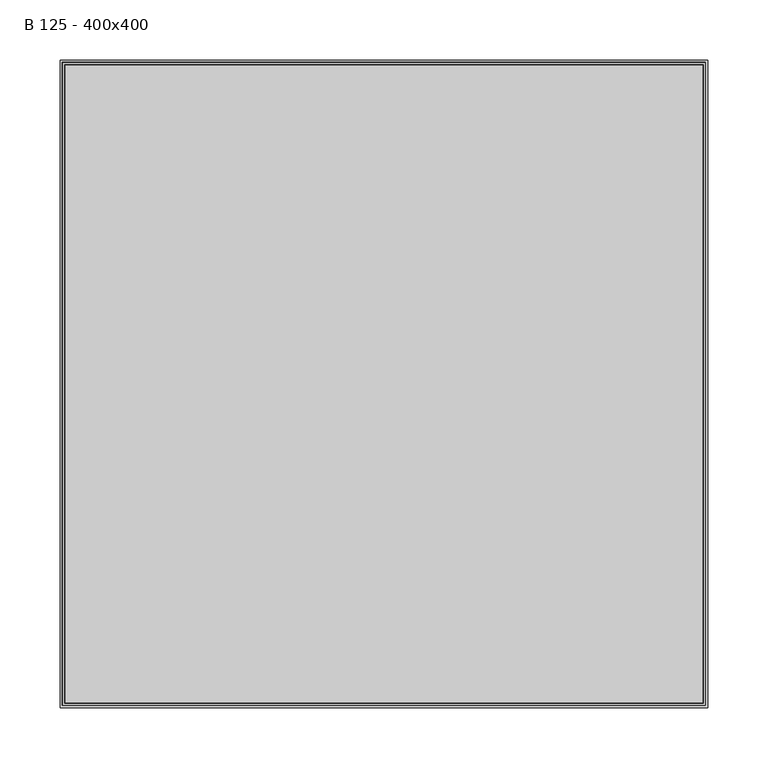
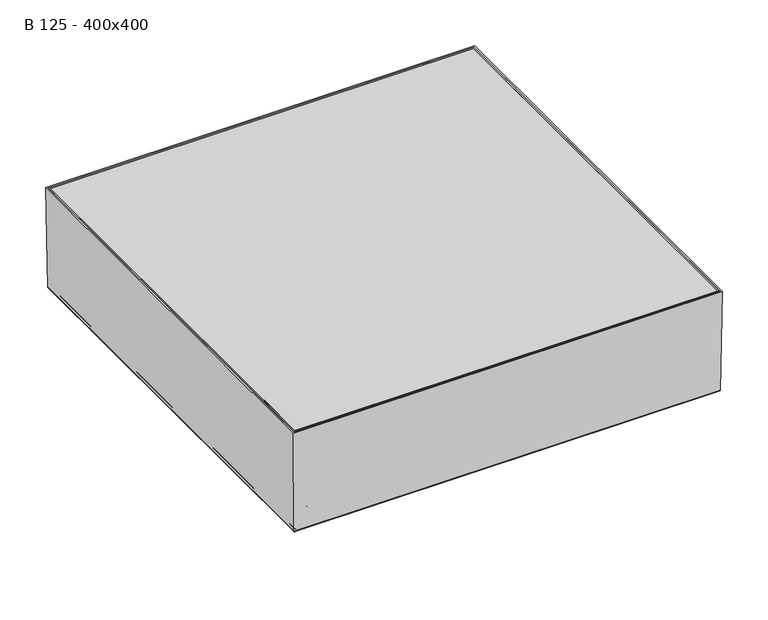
"""IFC4 building model written with IfcOpenShell, lengths in millimetres: proxy geometry, ME_ST_WPB_Access Cover PAVING GS 120_ACO : B 125 - 400x400."""

from ifc_helpers import new_model, si_unit, frame, origin, place, context, project, spatial, polyline, ellipse_curve, outline, extrude, faceted_brep, source, transform, mapped, element, save
from ifc_brep_helpers import plane_surface, cylinder_surface, revolved_surface, advanced_brep


def b_125_400x400_27d3137f(model_context):
    return source(origin(), model_context, "Body", "SolidModel", [
        extrude(outline(polyline([(265.4987812, 265.4987812), (265.4987812, -265.4987812), (-265.4987812, -265.4987812), (-265.4987812, 265.4987812), (265.4987812, 265.4987812)])), frame((0.0, 0.0, -5.0), z_axis=(0.0, 0.0, 1.0), x_axis=(1.0, 0.0, 0.0)), (0.0, 0.0, 1.0), 5.0),
        faceted_brep([(261.3786863, 261.3786863, -117.9987834), (-261.3786863, 261.3786863, -117.9987834), (-261.3786863, -261.3786863, -117.9987834), (261.3786863, -261.3786863, -117.9987834), (263.3100297, 263.3100297, -120.0), (263.3100297, -263.3100297, -120.0), (-263.3100297, -263.3100297, -120.0), (-263.3100297, 263.3100297, -120.0), (267.5, 267.5, 0.0), (267.5, -267.5, 0.0), (-267.5, -267.5, 0.0), (-267.5, 267.5, 0.0), (265.4987812, -265.4987812, 0.0), (265.4987812, 265.4987812, 0.0), (-265.4987812, -265.4987812, 0.0), (-265.4987812, 265.4987812, 0.0)], [[[0, 1, 2, 3]], [[4, 5, 6, 7]], [[4, 8, 9, 5]], [[5, 9, 10, 6]], [[6, 10, 11, 7]], [[8, 4, 7, 11]], [[0, 3, 12, 13]], [[3, 2, 14, 12]], [[2, 1, 15, 14]], [[1, 0, 13, 15]], [[9, 8, 11, 10], [13, 12, 14, 15]]]),
        extrude(outline(polyline([(-175.0, 135.0), (-165.0, 135.0), (-165.0, 5.0), (165.0, 5.0), (165.0, 135.0), (175.0, 135.0), (175.0, -135.0), (165.0, -135.0), (165.0, -5.0), (-165.0, -5.0), (-165.0, -135.0), (-175.0, -135.0), (-175.0, 135.0)])), frame((0.0, 0.0, -187.1), z_axis=(0.0, 0.0, 1.0), x_axis=(1.0, 0.0, 0.0)), (0.0, 0.0, 1.0), 43.1),
        extrude(outline(polyline([(135.0, 175.0), (135.0, 165.0), (5.0, 165.0), (5.0, -165.0), (135.0, -165.0), (135.0, -175.0), (-135.0, -175.0), (-135.0, -165.0), (-5.0, -165.0), (-5.0, 165.0), (-135.0, 165.0), (-135.0, 175.0), (135.0, 175.0)])), frame((0.0, 0.0, -187.1), z_axis=(0.0, 0.0, 1.0), x_axis=(1.0, 0.0, 0.0)), (0.0, 0.0, 1.0), 43.1),
        advanced_brep(
        [(266.5603915, 266.5603915, -133.0), (267.8917116, 267.8917116, -131.7973005), (267.8917116, -267.8917116, -131.7973005), (266.5603915, -266.5603915, -133.0), (233.991936, 233.991936, -133.5068236), (234.8495131, 234.8495131, -133.0), (234.8495131, -234.8495131, -133.0), (233.991936, -233.991936, -133.5068236), (224.0430631, 224.0430631, -143.4568727), (224.0430631, -224.0430631, -143.4568727), (223.0631773, 223.0631773, -144.0), (223.0631773, -223.0631773, -144.0), (200.0, 200.0, -142.0), (202.0, 202.0, -144.0), (202.0, -202.0, -144.0), (200.0, -200.0, -142.0), (200.0, 200.0, -131.0), (200.0, -200.0, -131.0), (202.0, 202.0, -131.0), (202.0, -202.0, -131.0), (202.0, -202.0, -140.1412819), (202.0, 202.0, -140.1412819), (203.5596496, 203.5596496, -142.0), (203.5596496, -203.5596496, -142.0), (223.1238392, 223.1238392, -141.5476755), (222.3710448, 222.3710448, -142.0), (222.3710448, -222.3710448, -142.0), (223.1238392, -223.1238392, -141.5476755), (233.2056833, 233.2056833, -131.4646396), (233.2056833, -233.2056833, -131.4646396), (234.1109139, 234.1109139, -130.9987834), (234.1109139, -234.1109139, -130.9987834), (265.914412, 265.914412, -129.9192491), (264.7898686, 264.7898686, -130.9987834), (264.7898686, -264.7898686, -130.9987834), (265.914412, -265.914412, -129.9192491), (267.4987388, 267.4987388, 0.0), (267.4987388, -267.4987388, 0.0), (269.4989406, 269.4989406, 0.0), (269.4989406, -269.4989406, 0.0), (-267.8917116, -267.8917116, -131.7973005), (-266.5603915, -266.5603915, -133.0), (-234.8495131, -234.8495131, -133.0), (-233.991936, -233.991936, -133.5068236), (-224.0430631, -224.0430631, -143.4568727), (-223.0631773, -223.0631773, -144.0), (-202.0, -202.0, -144.0), (-200.0, -200.0, -142.0), (-200.0, -200.0, -131.0), (-202.0, -202.0, -131.0), (-202.0, -202.0, -140.1412819), (-203.5596496, -203.5596496, -142.0), (-222.3710448, -222.3710448, -142.0), (-223.1238392, -223.1238392, -141.5476755), (-233.2056833, -233.2056833, -131.4646396), (-234.1109139, -234.1109139, -130.9987834), (-264.7898686, -264.7898686, -130.9987834), (-265.914412, -265.914412, -129.9192491), (-267.4987388, -267.4987388, 0.0), (-269.4989406, -269.4989406, 0.0), (-267.8917116, 267.8917116, -131.7973005), (-266.5603915, 266.5603915, -133.0), (-234.8495131, 234.8495131, -133.0), (-233.991936, 233.991936, -133.5068236), (-224.0430631, 224.0430631, -143.4568727), (-223.0631773, 223.0631773, -144.0), (-202.0, 202.0, -144.0), (-200.0, 200.0, -142.0), (-200.0, 200.0, -131.0), (-202.0, 202.0, -131.0), (-202.0, 202.0, -140.1412819), (-203.5596496, 203.5596496, -142.0), (-222.3710448, 222.3710448, -142.0), (-223.1238392, 223.1238392, -141.5476755), (-233.2056833, 233.2056833, -131.4646396), (-234.1109139, 234.1109139, -130.9987834), (-264.7898686, 264.7898686, -130.9987834), (-265.914412, 265.914412, -129.9192491), (-267.4987388, 267.4987388, 0.0), (-269.4989406, 269.4989406, 0.0)],
        [
            (0, 1, ellipse_curve(frame((266.5603915, 266.5603915, -131.6618023), z_axis=(0.7071067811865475, -0.7071067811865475, 0.0), x_axis=(0.7071067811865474, 0.7071067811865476, 0.0)), 1.8924973, 1.3381977)),
            (1, 2),
            (2, 3, ellipse_curve(frame((266.5603915, -266.5603915, -131.6618023), z_axis=(0.7071067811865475, 0.7071067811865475, 0.0), x_axis=(-0.7071067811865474, 0.7071067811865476, 0.0)), 1.8924973, 1.3381977)),
            (3, 0),
            (4, 5, ellipse_curve(frame((235.4062332, 235.4062332, -134.9209536), z_axis=(-0.7071067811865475, 0.7071067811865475, 0.0), x_axis=(-0.7071067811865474, -0.7071067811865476, 0.0)), 2.8284271, 2.0)),
            (5, 6),
            (6, 7, ellipse_curve(frame((235.4062332, -235.4062332, -134.9209536), z_axis=(-0.7071067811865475, -0.7071067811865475, 0.0), x_axis=(0.7071067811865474, -0.7071067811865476, 0.0)), 2.8284271, 2.0)),
            (7, 4),
            (8, 4),
            (7, 9),
            (9, 8),
            (10, 8, ellipse_curve(frame((221.5169048, 221.5169048, -140.0547885), z_axis=(0.7071067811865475, -0.7071067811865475, 0.0), x_axis=(0.7071067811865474, 0.7071067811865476, 0.0)), 5.9926042, 4.237411)),
            (9, 11, ellipse_curve(frame((221.5169048, -221.5169048, -140.0547885), z_axis=(0.7071067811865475, 0.7071067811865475, 0.0), x_axis=(-0.7071067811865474, 0.7071067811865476, 0.0)), 5.9926042, 4.237411)),
            (11, 10),
            (12, 13, ellipse_curve(frame((203.5491099, 203.5491099, -140.4508901), z_axis=(0.7071067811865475, -0.7071067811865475, 0.0), x_axis=(0.7071067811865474, 0.7071067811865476, 0.0)), 5.4764811, 3.872457)),
            (13, 14),
            (14, 15, ellipse_curve(frame((203.5491099, -203.5491099, -140.4508901), z_axis=(0.7071067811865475, 0.7071067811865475, 0.0), x_axis=(-0.7071067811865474, 0.7071067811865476, 0.0)), 5.4764811, 3.872457)),
            (15, 12),
            (16, 12),
            (15, 17),
            (17, 16),
            (18, 19),
            (19, 20),
            (20, 21),
            (21, 18),
            (22, 21, ellipse_curve(frame((203.9978512, 203.9978512, -140.0485955), z_axis=(-0.7071067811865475, 0.7071067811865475, 0.0), x_axis=(-0.7071067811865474, -0.7071067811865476, 0.0)), 2.8284271, 2.0)),
            (20, 23, ellipse_curve(frame((203.9978512, -203.9978512, -140.0485955), z_axis=(-0.7071067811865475, -0.7071067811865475, 0.0), x_axis=(0.7071067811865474, -0.7071067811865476, 0.0)), 2.8284271, 2.0)),
            (23, 22),
            (24, 25, ellipse_curve(frame((221.7425005, 221.7425005, -140.1013342), z_axis=(-0.7071067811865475, 0.7071067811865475, 0.0), x_axis=(-0.7071067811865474, -0.7071067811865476, 0.0)), 2.8284271, 2.0)),
            (25, 26),
            (26, 27, ellipse_curve(frame((221.7425005, -221.7425005, -140.1013342), z_axis=(-0.7071067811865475, -0.7071067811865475, 0.0), x_axis=(0.7071067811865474, -0.7071067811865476, 0.0)), 2.8284271, 2.0)),
            (27, 24),
            (28, 24),
            (27, 29),
            (29, 28),
            (30, 28, ellipse_curve(frame((234.4486156, 234.4486156, -132.7674195), z_axis=(0.7071067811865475, -0.7071067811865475, 0.0), x_axis=(0.7071067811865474, 0.7071067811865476, 0.0)), 2.5464155, 1.8005877)),
            (29, 31, ellipse_curve(frame((234.4486156, -234.4486156, -132.7674195), z_axis=(0.7071067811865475, 0.7071067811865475, 0.0), x_axis=(-0.7071067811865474, 0.7071067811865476, 0.0)), 2.5464155, 1.8005877)),
            (31, 30),
            (32, 33, ellipse_curve(frame((264.625281, 264.625281, -129.7018519), z_axis=(-0.7071067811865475, 0.7071067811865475, 0.0), x_axis=(-0.7071067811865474, -0.7071067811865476, 0.0)), 1.8488485, 1.3073333)),
            (33, 34),
            (34, 35, ellipse_curve(frame((264.625281, -264.625281, -129.7018519), z_axis=(-0.7071067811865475, -0.7071067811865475, 0.0), x_axis=(0.7071067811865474, -0.7071067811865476, 0.0)), 1.8488485, 1.3073333)),
            (35, 32),
            (36, 32),
            (35, 37),
            (37, 36),
            (1, 38),
            (38, 39),
            (39, 2),
            (2, 40),
            (40, 41, ellipse_curve(frame((-266.5603915, -266.5603915, -131.6618023), z_axis=(0.7071067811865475, -0.7071067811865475, 0.0), x_axis=(0.7071067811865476, 0.7071067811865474, 0.0)), 1.8924973, 1.3381977)),
            (41, 3),
            (6, 42),
            (42, 43, ellipse_curve(frame((-235.4062332, -235.4062332, -134.9209536), z_axis=(-0.7071067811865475, 0.7071067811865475, 0.0), x_axis=(-0.7071067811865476, -0.7071067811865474, 0.0)), 2.8284271, 2.0)),
            (43, 7),
            (43, 44),
            (44, 9),
            (44, 45, ellipse_curve(frame((-221.5169048, -221.5169048, -140.0547885), z_axis=(0.7071067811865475, -0.7071067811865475, 0.0), x_axis=(0.7071067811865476, 0.7071067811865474, 0.0)), 5.9926042, 4.237411)),
            (45, 11),
            (14, 46),
            (46, 47, ellipse_curve(frame((-203.5491099, -203.5491099, -140.4508901), z_axis=(0.7071067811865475, -0.7071067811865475, 0.0), x_axis=(0.7071067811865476, 0.7071067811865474, 0.0)), 5.4764811, 3.872457)),
            (47, 15),
            (47, 48),
            (48, 17),
            (19, 49),
            (49, 50),
            (50, 20),
            (50, 51, ellipse_curve(frame((-203.9978512, -203.9978512, -140.0485955), z_axis=(-0.7071067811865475, 0.7071067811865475, 0.0), x_axis=(-0.7071067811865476, -0.7071067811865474, 0.0)), 2.8284271, 2.0)),
            (51, 23),
            (26, 52),
            (52, 53, ellipse_curve(frame((-221.7425005, -221.7425005, -140.1013342), z_axis=(-0.7071067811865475, 0.7071067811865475, 0.0), x_axis=(-0.7071067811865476, -0.7071067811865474, 0.0)), 2.8284271, 2.0)),
            (53, 27),
            (53, 54),
            (54, 29),
            (54, 55, ellipse_curve(frame((-234.4486156, -234.4486156, -132.7674195), z_axis=(0.7071067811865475, -0.7071067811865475, 0.0), x_axis=(0.7071067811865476, 0.7071067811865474, 0.0)), 2.5464155, 1.8005877)),
            (55, 31),
            (34, 56),
            (56, 57, ellipse_curve(frame((-264.625281, -264.625281, -129.7018519), z_axis=(-0.7071067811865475, 0.7071067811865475, 0.0), x_axis=(-0.7071067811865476, -0.7071067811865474, 0.0)), 1.8488485, 1.3073333)),
            (57, 35),
            (57, 58),
            (58, 37),
            (39, 59),
            (59, 40),
            (40, 60),
            (60, 61, ellipse_curve(frame((-266.5603915, 266.5603915, -131.6618023), z_axis=(-0.7071067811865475, -0.7071067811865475, 0.0), x_axis=(0.7071067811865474, -0.7071067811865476, 0.0)), 1.8924973, 1.3381977)),
            (61, 41),
            (42, 62),
            (62, 63, ellipse_curve(frame((-235.4062332, 235.4062332, -134.9209536), z_axis=(0.7071067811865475, 0.7071067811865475, 0.0), x_axis=(-0.7071067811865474, 0.7071067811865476, 0.0)), 2.8284271, 2.0)),
            (63, 43),
            (63, 64),
            (64, 44),
            (64, 65, ellipse_curve(frame((-221.5169048, 221.5169048, -140.0547885), z_axis=(-0.7071067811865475, -0.7071067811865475, 0.0), x_axis=(0.7071067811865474, -0.7071067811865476, 0.0)), 5.9926042, 4.237411)),
            (65, 45),
            (46, 66),
            (66, 67, ellipse_curve(frame((-203.5491099, 203.5491099, -140.4508901), z_axis=(-0.7071067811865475, -0.7071067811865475, 0.0), x_axis=(0.7071067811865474, -0.7071067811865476, 0.0)), 5.4764811, 3.872457)),
            (67, 47),
            (67, 68),
            (68, 48),
            (49, 69),
            (69, 70),
            (70, 50),
            (70, 71, ellipse_curve(frame((-203.9978512, 203.9978512, -140.0485955), z_axis=(0.7071067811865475, 0.7071067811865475, 0.0), x_axis=(-0.7071067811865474, 0.7071067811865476, 0.0)), 2.8284271, 2.0)),
            (71, 51),
            (52, 72),
            (72, 73, ellipse_curve(frame((-221.7425005, 221.7425005, -140.1013342), z_axis=(0.7071067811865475, 0.7071067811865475, 0.0), x_axis=(-0.7071067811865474, 0.7071067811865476, 0.0)), 2.8284271, 2.0)),
            (73, 53),
            (73, 74),
            (74, 54),
            (74, 75, ellipse_curve(frame((-234.4486156, 234.4486156, -132.7674195), z_axis=(-0.7071067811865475, -0.7071067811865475, 0.0), x_axis=(0.7071067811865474, -0.7071067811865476, 0.0)), 2.5464155, 1.8005877)),
            (75, 55),
            (56, 76),
            (76, 77, ellipse_curve(frame((-264.625281, 264.625281, -129.7018519), z_axis=(0.7071067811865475, 0.7071067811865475, 0.0), x_axis=(-0.7071067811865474, 0.7071067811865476, 0.0)), 1.8488485, 1.3073333)),
            (77, 57),
            (77, 78),
            (78, 58),
            (59, 79),
            (79, 60),
            (60, 1),
            (0, 61),
            (5, 62),
            (4, 63),
            (8, 64),
            (10, 65),
            (13, 66),
            (12, 67),
            (16, 68),
            (18, 69),
            (21, 70),
            (22, 71),
            (25, 72),
            (24, 73),
            (28, 74),
            (30, 75),
            (33, 76),
            (32, 77),
            (36, 78),
            (38, 79),
        ],
        [
            cylinder_surface(frame((266.5603915, 269.5, -131.6618023), z_axis=(0.0, 1.0, 0.0), x_axis=(1.0, 0.0, 0.0)), 1.3381977),
            revolved_surface(polyline([(237.4062332, -237.40623318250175, -134.9209536), (237.4062332, 237.4062331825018, -134.9209536)]), (235.4062332, 269.5, -134.9209536), (0.0, -1.0, 0.0)),
            plane_surface(frame((233.991936, 233.991936, -133.5068236), z_axis=(0.7071485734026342, 0.0, -0.7070649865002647), x_axis=(0.0, -1.0, 0.0))),
            cylinder_surface(frame((221.5169048, 269.5, -140.0547885), z_axis=(0.0, 1.0, 0.0), x_axis=(1.0, 0.0, 0.0)), 4.237411),
            cylinder_surface(frame((203.5491099, 269.5, -140.4508901), z_axis=(0.0, 1.0, 0.0), x_axis=(1.0, 0.0, 0.0)), 3.872457),
            plane_surface(frame((200.0, 200.0, -142.0), z_axis=(-1.0, 0.0, 0.0), x_axis=(0.0, -1.0, 0.0))),
            plane_surface(frame((202.0, 202.0, -133.0), z_axis=(1.0, 0.0, 0.0), x_axis=(0.0, -1.0, 0.0))),
            revolved_surface(polyline([(205.9978512, -205.9978511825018, -140.0485955), (205.9978512, 205.99785118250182, -140.0485955)]), (203.9978512, 269.5, -140.0485955), (0.0, -1.0, 0.0)),
            revolved_surface(polyline([(223.7425005, -223.74250048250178, -140.1013342), (223.7425005, 223.7425004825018, -140.1013342)]), (221.7425005, 269.5, -140.1013342), (0.0, -1.0, 0.0)),
            plane_surface(frame((223.1238392, 223.1238392, -141.5476755), z_axis=(-0.7071485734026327, 0.0, 0.7070649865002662), x_axis=(0.0, -1.0, 0.0))),
            cylinder_surface(frame((234.4486156, 269.5, -132.7674195), z_axis=(0.0, 1.0, 0.0), x_axis=(1.0, 0.0, 0.0)), 1.8005877),
            revolved_surface(polyline([(265.93261429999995, -265.93261431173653, -129.7018519), (265.93261429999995, 265.93261431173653, -129.7018519)]), (264.625281, 269.5, -129.7018519), (0.0, -1.0, 0.0)),
            plane_surface(frame((265.914412, 265.914412, -129.9192491), z_axis=(-0.9999256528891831, 0.0, 0.01219379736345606), x_axis=(0.0, -1.0, 0.0))),
            plane_surface(frame((269.4989406, 269.4989406, 0.0), z_axis=(0.9999256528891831, 0.0, -0.012193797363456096), x_axis=(0.0, -1.0, 0.0))),
            cylinder_surface(frame((269.5, -266.5603915, -131.6618023), z_axis=(1.0, 0.0, 0.0), x_axis=(0.0, -1.0, 0.0)), 1.3381977),
            revolved_surface(polyline([(-237.40623318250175, -237.4062332, -134.9209536), (237.4062331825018, -237.4062332, -134.9209536)]), (269.5, -235.4062332, -134.9209536), (-1.0, 0.0, 0.0)),
            plane_surface(frame((233.991936, -233.991936, -133.5068236), z_axis=(0.0, -0.7071485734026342, -0.7070649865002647), x_axis=(-1.0, 0.0, 0.0))),
            cylinder_surface(frame((269.5, -221.5169048, -140.0547885), z_axis=(1.0, 0.0, 0.0), x_axis=(0.0, -1.0, 0.0)), 4.237411),
            cylinder_surface(frame((269.5, -203.5491099, -140.4508901), z_axis=(1.0, 0.0, 0.0), x_axis=(0.0, -1.0, 0.0)), 3.872457),
            plane_surface(frame((200.0, -200.0, -142.0), z_axis=(0.0, 1.0, 0.0), x_axis=(-1.0, 0.0, 0.0))),
            plane_surface(frame((202.0, -202.0, -133.0), z_axis=(0.0, -1.0, 0.0), x_axis=(-1.0, 0.0, 0.0))),
            revolved_surface(polyline([(-205.9978511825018, -205.9978512, -140.0485955), (205.99785118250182, -205.9978512, -140.0485955)]), (269.5, -203.9978512, -140.0485955), (-1.0, 0.0, 0.0)),
            revolved_surface(polyline([(-223.74250048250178, -223.7425005, -140.1013342), (223.7425004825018, -223.7425005, -140.1013342)]), (269.5, -221.7425005, -140.1013342), (-1.0, 0.0, 0.0)),
            plane_surface(frame((223.1238392, -223.1238392, -141.5476755), z_axis=(0.0, 0.7071485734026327, 0.7070649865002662), x_axis=(-1.0, 0.0, 0.0))),
            cylinder_surface(frame((269.5, -234.4486156, -132.7674195), z_axis=(1.0, 0.0, 0.0), x_axis=(0.0, -1.0, 0.0)), 1.8005877),
            revolved_surface(polyline([(-265.93261431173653, -265.93261429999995, -129.7018519), (265.93261431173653, -265.93261429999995, -129.7018519)]), (269.5, -264.625281, -129.7018519), (-1.0, 0.0, 0.0)),
            plane_surface(frame((265.914412, -265.914412, -129.9192491), z_axis=(0.0, 0.9999256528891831, 0.01219379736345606), x_axis=(-1.0, 0.0, 0.0))),
            plane_surface(frame((269.4989406, -269.4989406, 0.0), z_axis=(0.0, -0.9999256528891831, -0.012193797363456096), x_axis=(-1.0, 0.0, 0.0))),
            cylinder_surface(frame((-266.5603915, -269.5, -131.6618023), z_axis=(0.0, -1.0, 0.0), x_axis=(-1.0, 0.0, 0.0)), 1.3381977),
            revolved_surface(polyline([(-237.4062332, 237.40623318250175, -134.9209536), (-237.4062332, -237.4062331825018, -134.9209536)]), (-235.4062332, -269.5, -134.9209536), (0.0, 1.0, 0.0)),
            plane_surface(frame((-233.991936, -233.991936, -133.5068236), z_axis=(-0.7071485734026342, 0.0, -0.7070649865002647), x_axis=(0.0, 1.0, 0.0))),
            cylinder_surface(frame((-221.5169048, -269.5, -140.0547885), z_axis=(0.0, -1.0, 0.0), x_axis=(-1.0, 0.0, 0.0)), 4.237411),
            cylinder_surface(frame((-203.5491099, -269.5, -140.4508901), z_axis=(0.0, -1.0, 0.0), x_axis=(-1.0, 0.0, 0.0)), 3.872457),
            plane_surface(frame((-200.0, -200.0, -142.0), z_axis=(1.0, 0.0, 0.0), x_axis=(0.0, 1.0, 0.0))),
            plane_surface(frame((-202.0, -202.0, -133.0), z_axis=(-1.0, 0.0, 0.0), x_axis=(0.0, 1.0, 0.0))),
            revolved_surface(polyline([(-205.9978512, 205.9978511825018, -140.0485955), (-205.9978512, -205.99785118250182, -140.0485955)]), (-203.9978512, -269.5, -140.0485955), (0.0, 1.0, 0.0)),
            revolved_surface(polyline([(-223.7425005, 223.74250048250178, -140.1013342), (-223.7425005, -223.7425004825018, -140.1013342)]), (-221.7425005, -269.5, -140.1013342), (0.0, 1.0, 0.0)),
            plane_surface(frame((-223.1238392, -223.1238392, -141.5476755), z_axis=(0.7071485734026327, 0.0, 0.7070649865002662), x_axis=(0.0, 1.0, 0.0))),
            cylinder_surface(frame((-234.4486156, -269.5, -132.7674195), z_axis=(0.0, -1.0, 0.0), x_axis=(-1.0, 0.0, 0.0)), 1.8005877),
            revolved_surface(polyline([(-265.93261429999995, 265.93261431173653, -129.7018519), (-265.93261429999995, -265.93261431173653, -129.7018519)]), (-264.625281, -269.5, -129.7018519), (0.0, 1.0, 0.0)),
            plane_surface(frame((-265.914412, -265.914412, -129.9192491), z_axis=(0.9999256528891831, 0.0, 0.01219379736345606), x_axis=(0.0, 1.0, 0.0))),
            plane_surface(frame((-269.4989406, -269.4989406, 0.0), z_axis=(-0.9999256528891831, 0.0, -0.012193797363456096), x_axis=(0.0, 1.0, 0.0))),
            cylinder_surface(frame((-269.5, 266.5603915, -131.6618023), z_axis=(-1.0, 0.0, 0.0), x_axis=(0.0, 1.0, 0.0)), 1.3381977),
            plane_surface(frame((-266.5603915, 266.5603915, -133.0), z_axis=(0.0, 0.0, -1.0), x_axis=(1.0, 0.0, 0.0))),
            revolved_surface(polyline([(237.40623318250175, 237.4062332, -134.9209536), (-237.4062331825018, 237.4062332, -134.9209536)]), (-269.5, 235.4062332, -134.9209536), (1.0, 0.0, 0.0)),
            plane_surface(frame((-233.991936, 233.991936, -133.5068236), z_axis=(0.0, 0.7071485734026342, -0.7070649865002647), x_axis=(1.0, 0.0, 0.0))),
            cylinder_surface(frame((-269.5, 221.5169048, -140.0547885), z_axis=(-1.0, 0.0, 0.0), x_axis=(0.0, 1.0, 0.0)), 4.237411),
            plane_surface(frame((-223.0631773, 223.0631773, -144.0), z_axis=(0.0, 0.0, -1.0), x_axis=(1.0, 0.0, 0.0))),
            cylinder_surface(frame((-269.5, 203.5491099, -140.4508901), z_axis=(-1.0, 0.0, 0.0), x_axis=(0.0, 1.0, 0.0)), 3.872457),
            plane_surface(frame((-200.0, 200.0, -142.0), z_axis=(0.0, -1.0, 0.0), x_axis=(1.0, 0.0, 0.0))),
            plane_surface(frame((-200.0, 200.0, -131.0), z_axis=(0.0, 0.0, 1.0), x_axis=(1.0, 0.0, 0.0))),
            plane_surface(frame((-202.0, 202.0, -133.0), z_axis=(0.0, 1.0, 0.0), x_axis=(1.0, 0.0, 0.0))),
            revolved_surface(polyline([(205.9978511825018, 205.9978512, -140.0485955), (-205.99785118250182, 205.9978512, -140.0485955)]), (-269.5, 203.9978512, -140.0485955), (1.0, 0.0, 0.0)),
            plane_surface(frame((-203.5596496, 203.5596496, -142.0), z_axis=(0.0, 0.0, 1.0), x_axis=(1.0, 0.0, 0.0))),
            revolved_surface(polyline([(223.74250048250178, 223.7425005, -140.1013342), (-223.7425004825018, 223.7425005, -140.1013342)]), (-269.5, 221.7425005, -140.1013342), (1.0, 0.0, 0.0)),
            plane_surface(frame((-223.1238392, 223.1238392, -141.5476755), z_axis=(0.0, -0.7071485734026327, 0.7070649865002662), x_axis=(1.0, 0.0, 0.0))),
            cylinder_surface(frame((-269.5, 234.4486156, -132.7674195), z_axis=(-1.0, 0.0, 0.0), x_axis=(0.0, 1.0, 0.0)), 1.8005877),
            plane_surface(frame((-234.1109139, 234.1109139, -130.9987834), z_axis=(0.0, 0.0, 1.0), x_axis=(1.0, 0.0, 0.0))),
            revolved_surface(polyline([(265.93261431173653, 265.93261429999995, -129.7018519), (-265.93261431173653, 265.93261429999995, -129.7018519)]), (-269.5, 264.625281, -129.7018519), (1.0, 0.0, 0.0)),
            plane_surface(frame((-265.914412, 265.914412, -129.9192491), z_axis=(0.0, -0.9999256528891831, 0.01219379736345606), x_axis=(1.0, 0.0, 0.0))),
            plane_surface(frame((-267.4987388, 267.4987388, 0.0), z_axis=(0.0, 0.0, 1.0), x_axis=(1.0, 0.0, 0.0))),
            plane_surface(frame((-269.4989406, 269.4989406, 0.0), z_axis=(0.0, 0.9999256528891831, -0.012193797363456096), x_axis=(1.0, 0.0, 0.0))),
        ],
        [
            (0, [[1, 2, 3, 4]]),
            (1, [[5, 6, 7, 8]]),
            (2, [[9, -8, 10, 11]]),
            (3, [[12, -11, 13, 14]]),
            (4, [[15, 16, 17, 18]]),
            (5, [[19, -18, 20, 21]]),
            (6, [[22, 23, 24, 25]]),
            (7, [[26, -24, 27, 28]]),
            (8, [[29, 30, 31, 32]]),
            (9, [[33, -32, 34, 35]]),
            (10, [[36, -35, 37, 38]]),
            (11, [[39, 40, 41, 42]]),
            (12, [[43, -42, 44, 45]]),
            (13, [[46, 47, 48, -2]]),
            (14, [[-3, 49, 50, 51]]),
            (15, [[-7, 52, 53, 54]]),
            (16, [[-10, -54, 55, 56]]),
            (17, [[-13, -56, 57, 58]]),
            (18, [[-17, 59, 60, 61]]),
            (19, [[-20, -61, 62, 63]]),
            (20, [[-23, 64, 65, 66]]),
            (21, [[-27, -66, 67, 68]]),
            (22, [[-31, 69, 70, 71]]),
            (23, [[-34, -71, 72, 73]]),
            (24, [[-37, -73, 74, 75]]),
            (25, [[-41, 76, 77, 78]]),
            (26, [[-44, -78, 79, 80]]),
            (27, [[-48, 81, 82, -49]]),
            (28, [[-50, 83, 84, 85]]),
            (29, [[-53, 86, 87, 88]]),
            (30, [[-55, -88, 89, 90]]),
            (31, [[-57, -90, 91, 92]]),
            (32, [[-60, 93, 94, 95]]),
            (33, [[-62, -95, 96, 97]]),
            (34, [[-65, 98, 99, 100]]),
            (35, [[-67, -100, 101, 102]]),
            (36, [[-70, 103, 104, 105]]),
            (37, [[-72, -105, 106, 107]]),
            (38, [[-74, -107, 108, 109]]),
            (39, [[-77, 110, 111, 112]]),
            (40, [[-79, -112, 113, 114]]),
            (41, [[-82, 115, 116, -83]]),
            (42, [[-84, 117, -1, 118]]),
            (43, [[-51, -85, -118, -4], [119, -86, -52, -6]]),
            (44, [[-87, -119, -5, 120]]),
            (45, [[-89, -120, -9, 121]]),
            (46, [[-91, -121, -12, 122]]),
            (47, [[-58, -92, -122, -14], [123, -93, -59, -16]]),
            (48, [[-94, -123, -15, 124]]),
            (49, [[-96, -124, -19, 125]]),
            (50, [[126, -98, -64, -22], [-63, -97, -125, -21]]),
            (51, [[-99, -126, -25, 127]]),
            (52, [[-101, -127, -26, 128]]),
            (53, [[129, -103, -69, -30], [-68, -102, -128, -28]]),
            (54, [[-104, -129, -29, 130]]),
            (55, [[-106, -130, -33, 131]]),
            (56, [[-108, -131, -36, 132]]),
            (57, [[133, -110, -76, -40], [-75, -109, -132, -38]]),
            (58, [[-111, -133, -39, 134]]),
            (59, [[-113, -134, -43, 135]]),
            (60, [[136, -115, -81, -47], [-80, -114, -135, -45]]),
            (61, [[-116, -136, -46, -117]]),
        ],
    ),
    ])


if __name__ == "__main__":
    model = new_model("IFC4")
    model_context = context("Model", 3, world=origin())
    ifc_project = project(units=[si_unit("LENGTHUNIT", "METRE", prefix="MILLI")], contexts=[model_context])
    site = spatial("IfcSite", under=ifc_project)
    building = spatial("IfcBuilding", under=site)
    placement = place(None, origin())
    b_125_400x400_shape = b_125_400x400_27d3137f(model_context)
    element("IfcBuildingElementProxy", 1, Name="ME_ST_WPB_Access Cover PAVING GS 120_ACO : B 125 - 400x400", ObjectType="ME_ST_WPB_Access Cover PAVING GS 120_ACO : B 125 - 400x400", at=placement, inside=building, context=model_context, shape_type="MappedRepresentation", body=[
        mapped(b_125_400x400_shape, transform((0.0, 0.0, 0.0), x_axis=(1.0, 0.0, 0.0), y_axis=(0.0, 1.0, 0.0), z_axis=(0.0, 0.0, 1.0))),
    ])
    save(model, "model.ifc")
